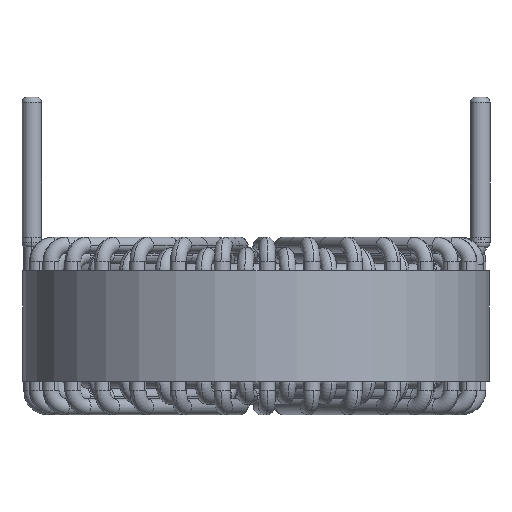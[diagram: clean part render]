
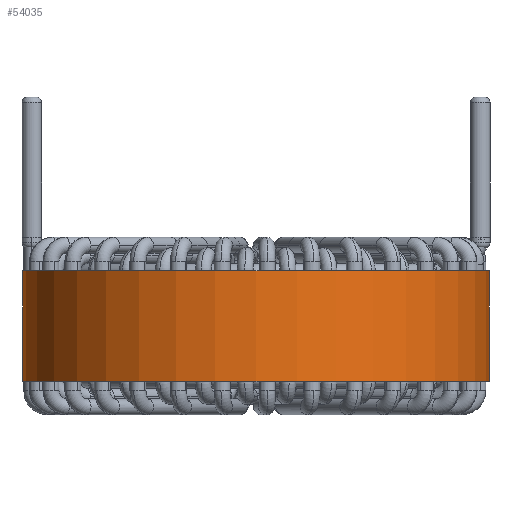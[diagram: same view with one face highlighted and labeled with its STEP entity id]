
A CAD part, front view. The second image highlights one B-rep face of the part: STEP entity #54035.
In plain terms, the highlighted cylindrical face has radius 21.15 mm (diameter 42.3 mm), a partial arc.
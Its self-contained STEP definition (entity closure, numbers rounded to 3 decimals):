
#898 = EDGE_CURVE ( 'NONE', #31659, #19719, #69113, .T. ) ;
#3827 = DIRECTION ( 'NONE',  ( 0., 0., 1. ) ) ;
#10072 = EDGE_CURVE ( 'NONE', #18325, #31659, #40854, .T. ) ;
#10238 = CARTESIAN_POINT ( 'NONE',  ( 21.15, 0., -5. ) ) ;
#11625 = EDGE_CURVE ( 'NONE', #18325, #33261, #57825, .T. ) ;
#14341 = DIRECTION ( 'NONE',  ( 0., 0., -1. ) ) ;
#15878 = CARTESIAN_POINT ( 'NONE',  ( 0., 0., 5. ) ) ;
#16070 = ORIENTED_EDGE ( 'NONE', *, *, #898, .T. ) ;
#17667 = CARTESIAN_POINT ( 'NONE',  ( -21.15, 0., 5. ) ) ;
#18325 = VERTEX_POINT ( 'NONE', #17667 ) ;
#19719 = VERTEX_POINT ( 'NONE', #10238 ) ;
#20541 = ORIENTED_EDGE ( 'NONE', *, *, #23208, .F. ) ;
#21448 = DIRECTION ( 'NONE',  ( 1., 0., 0. ) ) ;
#22704 = AXIS2_PLACEMENT_3D ( 'NONE', #49801, #3827, #44231 ) ;
#23208 = EDGE_CURVE ( 'NONE', #33261, #19719, #41384, .T. ) ;
#25510 = DIRECTION ( 'NONE',  ( -1., 0., 0. ) ) ;
#26139 = VECTOR ( 'NONE', #29374, 1000. ) ;
#26844 = CARTESIAN_POINT ( 'NONE',  ( 21.15, 0., 5. ) ) ;
#28386 = ORIENTED_EDGE ( 'NONE', *, *, #10072, .T. ) ;
#29374 = DIRECTION ( 'NONE',  ( 0., 0., -1. ) ) ;
#30931 = VECTOR ( 'NONE', #60874, 1000. ) ;
#31659 = VERTEX_POINT ( 'NONE', #34511 ) ;
#33261 = VERTEX_POINT ( 'NONE', #26844 ) ;
#34511 = CARTESIAN_POINT ( 'NONE',  ( -21.15, 0., -5. ) ) ;
#36485 = AXIS2_PLACEMENT_3D ( 'NONE', #15878, #38835, #21448 ) ;
#38835 = DIRECTION ( 'NONE',  ( 0., 0., 1. ) ) ;
#40854 = LINE ( 'NONE', #56977, #26139 ) ;
#41384 = LINE ( 'NONE', #44872, #30931 ) ;
#44231 = DIRECTION ( 'NONE',  ( 1., 0., 0. ) ) ;
#44872 = CARTESIAN_POINT ( 'NONE',  ( 21.15, 0., 5. ) ) ;
#47493 = CARTESIAN_POINT ( 'NONE',  ( 0., 0., 5. ) ) ;
#47778 = ORIENTED_EDGE ( 'NONE', *, *, #11625, .F. ) ;
#49801 = CARTESIAN_POINT ( 'NONE',  ( 0., 0., -5. ) ) ;
#54035 = ADVANCED_FACE ( 'NONE', ( #64582 ), #54268, .T. ) ;
#54268 = CYLINDRICAL_SURFACE ( 'NONE', #61641, 21.15 ) ;
#56977 = CARTESIAN_POINT ( 'NONE',  ( -21.15, 0., 5. ) ) ;
#57825 = CIRCLE ( 'NONE', #36485, 21.15 ) ;
#60874 = DIRECTION ( 'NONE',  ( 0., 0., -1. ) ) ;
#61641 = AXIS2_PLACEMENT_3D ( 'NONE', #47493, #14341, #25510 ) ;
#64582 = FACE_OUTER_BOUND ( 'NONE', #70324, .T. ) ;
#69113 = CIRCLE ( 'NONE', #22704, 21.15 ) ;
#70324 = EDGE_LOOP ( 'NONE', ( #20541, #47778, #28386, #16070 ) ) ;
